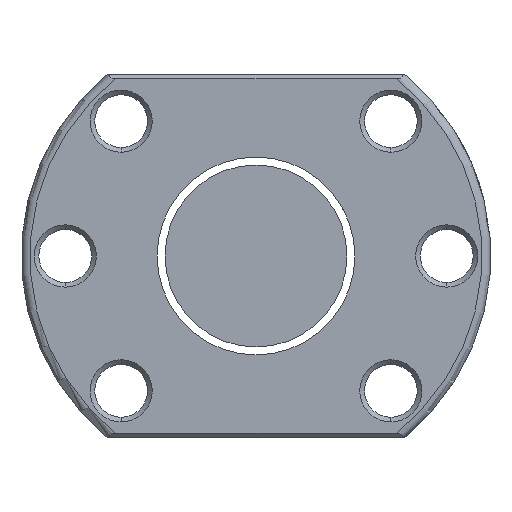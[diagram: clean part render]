
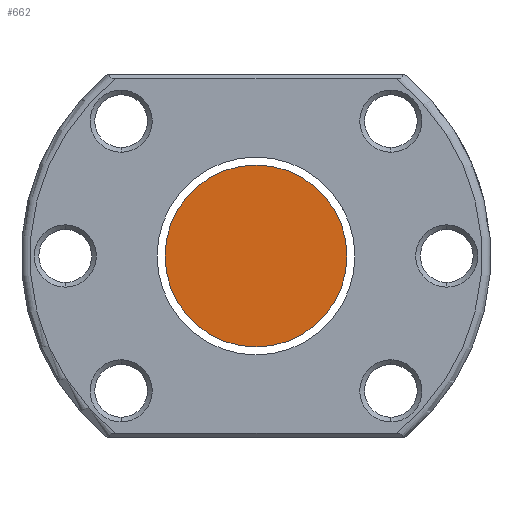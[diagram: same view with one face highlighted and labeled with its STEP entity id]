
A CAD part, left-side view. The second image highlights one B-rep face of the part: STEP entity #662.
In plain terms, the highlighted planar face has unit normal (-1, 0, 0).
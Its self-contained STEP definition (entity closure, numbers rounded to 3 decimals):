
#328 = AXIS2_PLACEMENT_3D ( 'NONE', #1790, #470, #2681 ) ;
#470 = DIRECTION ( 'NONE',  ( 1., 0., 0. ) ) ;
#662 = ADVANCED_FACE ( 'NONE', ( #2050 ), #5408, .T. ) ;
#868 = CIRCLE ( 'NONE', #4269, 15.5 ) ;
#1128 = CIRCLE ( 'NONE', #328, 15.5 ) ;
#1447 = CARTESIAN_POINT ( 'NONE',  ( -270., 0., -15.5 ) ) ;
#1563 = CARTESIAN_POINT ( 'NONE',  ( -270., 0., 0. ) ) ;
#1754 = AXIS2_PLACEMENT_3D ( 'NONE', #1563, #2884, #2468 ) ;
#1790 = CARTESIAN_POINT ( 'NONE',  ( -270., 0., 0. ) ) ;
#1820 = CARTESIAN_POINT ( 'NONE',  ( -270., 0., 0. ) ) ;
#2050 = FACE_OUTER_BOUND ( 'NONE', #2436, .T. ) ;
#2436 = EDGE_LOOP ( 'NONE', ( #3587, #4170 ) ) ;
#2468 = DIRECTION ( 'NONE',  ( 0., 0., 1. ) ) ;
#2681 = DIRECTION ( 'NONE',  ( 0., 0., -1. ) ) ;
#2884 = DIRECTION ( 'NONE',  ( -1., 0., 0. ) ) ;
#3527 = DIRECTION ( 'NONE',  ( 1., 0., 0. ) ) ;
#3587 = ORIENTED_EDGE ( 'NONE', *, *, #4236, .F. ) ;
#3662 = VERTEX_POINT ( 'NONE', #4911 ) ;
#4170 = ORIENTED_EDGE ( 'NONE', *, *, #4478, .F. ) ;
#4236 = EDGE_CURVE ( 'NONE', #5295, #3662, #868, .T. ) ;
#4269 = AXIS2_PLACEMENT_3D ( 'NONE', #1820, #3527, #4828 ) ;
#4478 = EDGE_CURVE ( 'NONE', #3662, #5295, #1128, .T. ) ;
#4828 = DIRECTION ( 'NONE',  ( 0., 0., -1. ) ) ;
#4911 = CARTESIAN_POINT ( 'NONE',  ( -270., 0., 15.5 ) ) ;
#5295 = VERTEX_POINT ( 'NONE', #1447 ) ;
#5408 = PLANE ( 'NONE',  #1754 ) ;
